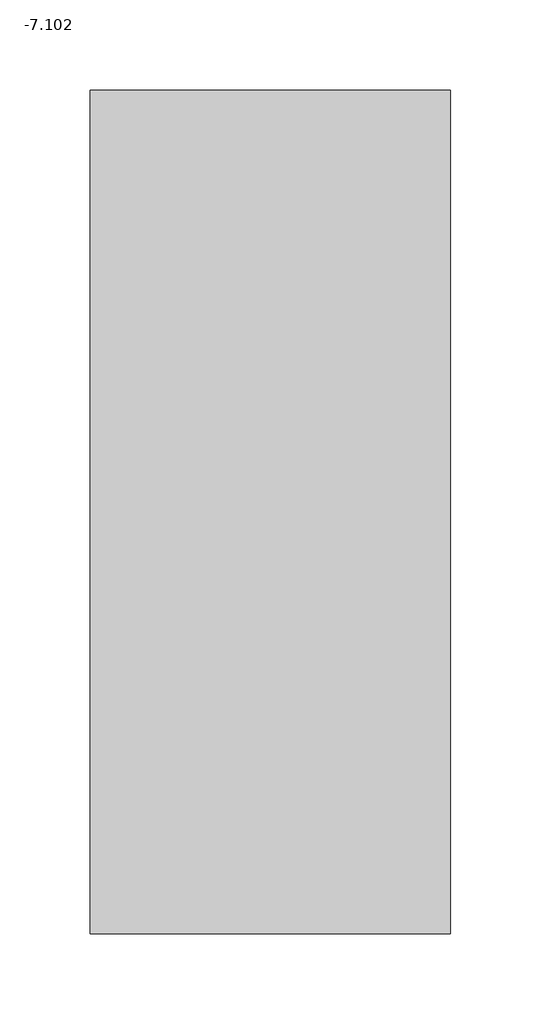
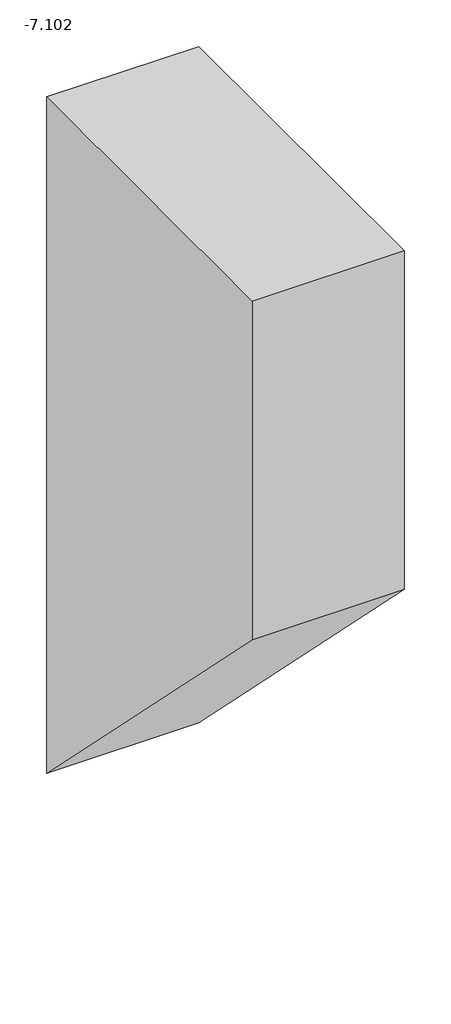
# One storey, incomplete: 1 beam.
"""IFC4 building model written with IfcOpenShell, lengths in millimetres."""

from ifc_helpers import new_model, si_unit, origin, place, context, project, spatial, transform, mapped, element, save
from components import beam_40fa813a

model = new_model("IFC4")

# Units and contexts
model_context = context("Model", 3, world=origin())
ifc_project = project(units=[si_unit("LENGTHUNIT", "METRE", prefix="MILLI")], contexts=[model_context])

# Site, building, storey
site = spatial("IfcSite", under=ifc_project)
building = spatial("IfcBuilding", under=site)
storey = spatial("IfcBuildingStorey", under=building, Name="-7.102", Elevation=-1132.0729674)

# Beam
placement = place(None, origin())
beam_shape = beam_40fa813a(model_context)
element("IfcBeam", 1, ObjectType="appoggiTravi6 : appoggiTravi", at=placement, inside=storey, context=model_context, shape_type="MappedRepresentation", body=[
    mapped(beam_shape, transform((0.0, 0.0, 0.0), x_axis=(1.0, 0.0, 0.0), y_axis=(0.0, 1.0, 0.0), z_axis=(0.0, 0.0, 1.0))),
])

save(model, "model.ifc")
